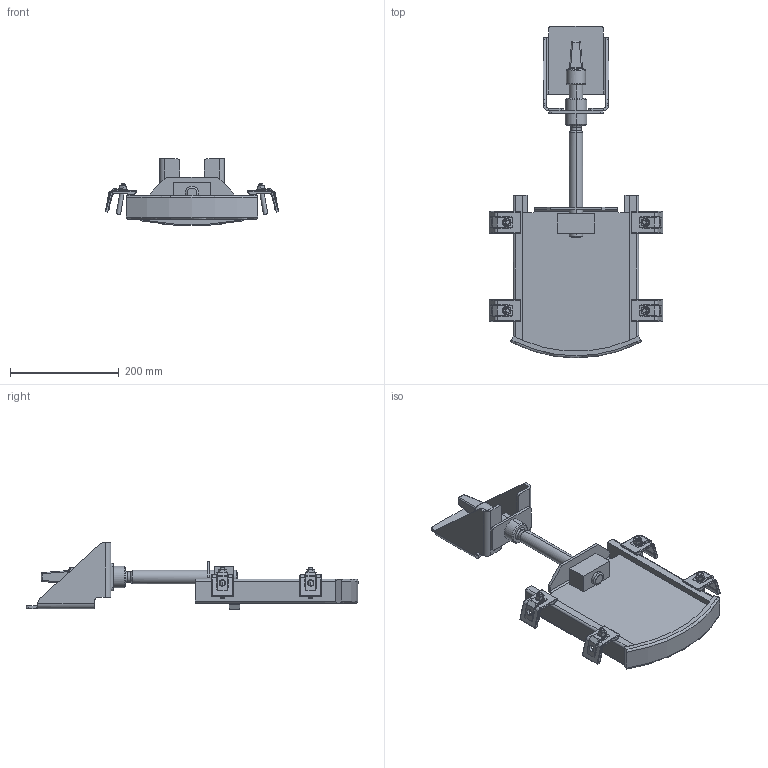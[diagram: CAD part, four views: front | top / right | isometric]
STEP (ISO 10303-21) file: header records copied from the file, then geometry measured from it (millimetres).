
FILE_DESCRIPTION (( 'STEP AP214' ), '1' );
FILE_NAME ('LW 150 Schacht1000 betoniert.STEP', '2022-05-19T08:09:14', ( '' ), ( '' ), 'SwSTEP 2.0', 'SolidWorks 2021', '' );
FILE_SCHEMA (( 'AUTOMOTIVE_DESIGN' ));
Length unit declared in the file: millimetre
Products named in the file (1): LW 150 Schacht1000 betoniert
Bounding box: 319.46 x 610 x 121.99 mm (x, y, z)
Volume: 1512558.1 mm3; surface area: 424704.8 mm2
Topology: 1 solids, 5 shells, 775 faces, 1838 edges, 1036 vertices
Faces by surface type: cylinder 301, plane 242, cone 62, sphere 60, torus 56, bspline 54
Entity records: 32415 total; most frequent: CARTESIAN_POINT 6722, DIRECTION 3684, ORIENTED_EDGE 3556, EDGE_CURVE 1778, AXIS2_PLACEMENT_3D 1448, VERTEX_POINT 1028, EDGE_LOOP 818, VECTOR 788
